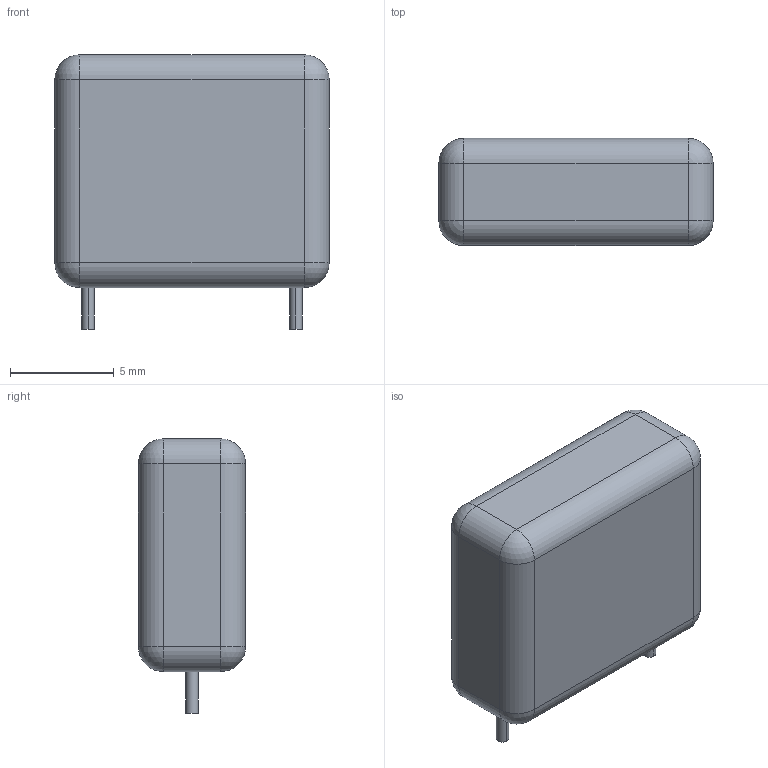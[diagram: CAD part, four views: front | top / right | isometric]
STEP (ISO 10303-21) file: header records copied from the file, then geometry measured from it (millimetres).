
FILE_DESCRIPTION (( 'STEP AP214' ), '1' );
FILE_NAME ( 'CAPRR1000W60L1320T515H1120.STEP', '2021-10-06T06:48:58', ( '' ), ( '' ), '', '©2017 PCB Libraries, Inc.', '' );
FILE_SCHEMA (( 'AUTOMOTIVE_DESIGN' ));
Length unit declared in the file: millimetre
Products named in the file (1): CAPRR1000W60L1320T515H1120
Bounding box: 13.2 x 5.15 x 13.2 mm (x, y, z)
Volume: 728.3 mm3; surface area: 493.2 mm2
Topology: 3 solids, 3 shells, 34 faces, 68 edges, 32 vertices
Faces by surface type: cylinder 16, plane 10, sphere 8
Entity records: 947 total; most frequent: DIRECTION 162, CARTESIAN_POINT 127, ORIENTED_EDGE 120, AXIS2_PLACEMENT_3D 67, EDGE_CURVE 60, STYLED_ITEM 38, PRESENTATION_LAYER_ASSIGNMENT 38, MECHANICAL_DESIGN_GEOMETRIC_PRESENTATION_REPRESENTATION 38
